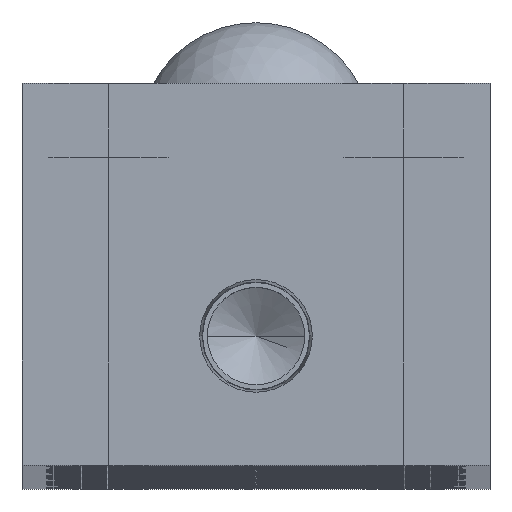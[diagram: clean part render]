
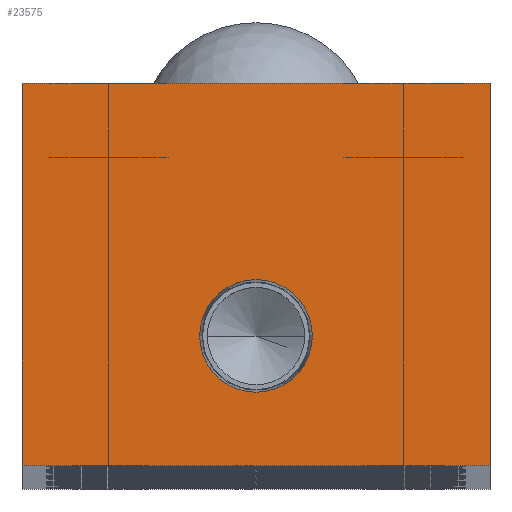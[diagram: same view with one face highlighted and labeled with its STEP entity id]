
A CAD part, top view. The second image highlights one B-rep face of the part: STEP entity #23575.
In plain terms, the highlighted planar face has unit normal (0, 0, 1).
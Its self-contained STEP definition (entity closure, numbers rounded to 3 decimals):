
#78 = DIRECTION ( 'NONE',  ( 0., 0., 1. ) ) ;
#488 = AXIS2_PLACEMENT_3D ( 'NONE', #12003, #78, #13987 ) ;
#776 = FACE_OUTER_BOUND ( 'NONE', #14214, .T. ) ;
#1343 = CIRCLE ( 'NONE', #8031, 4.574 ) ;
#1709 = VECTOR ( 'NONE', #20696, 1000. ) ;
#2807 = EDGE_CURVE ( 'NONE', #15770, #7785, #13176, .T. ) ;
#2835 = ORIENTED_EDGE ( 'NONE', *, *, #8376, .T. ) ;
#3210 = VECTOR ( 'NONE', #14249, 1000. ) ;
#4019 = ORIENTED_EDGE ( 'NONE', *, *, #2807, .T. ) ;
#4282 = CARTESIAN_POINT ( 'NONE',  ( -19., 0., 0. ) ) ;
#4551 = DIRECTION ( 'NONE',  ( 0., 0., -1. ) ) ;
#4809 = CARTESIAN_POINT ( 'NONE',  ( 19., 31., 0. ) ) ;
#5466 = DIRECTION ( 'NONE',  ( 0., 0., 1. ) ) ;
#6049 = FACE_BOUND ( 'NONE', #10559, .T. ) ;
#6337 = CARTESIAN_POINT ( 'NONE',  ( 19., 31., 0. ) ) ;
#6856 = CARTESIAN_POINT ( 'NONE',  ( 19., 0., 0. ) ) ;
#7102 = CARTESIAN_POINT ( 'NONE',  ( -19., 31., 0. ) ) ;
#7663 = VERTEX_POINT ( 'NONE', #4282 ) ;
#7696 = VERTEX_POINT ( 'NONE', #14383 ) ;
#7785 = VERTEX_POINT ( 'NONE', #4809 ) ;
#7807 = CARTESIAN_POINT ( 'NONE',  ( 19., 0., 0. ) ) ;
#8031 = AXIS2_PLACEMENT_3D ( 'NONE', #17369, #5466, #19355 ) ;
#8376 = EDGE_CURVE ( 'NONE', #7663, #15770, #17549, .T. ) ;
#9028 = LINE ( 'NONE', #14829, #18955 ) ;
#9597 = EDGE_CURVE ( 'NONE', #23989, #11943, #1343, .T. ) ;
#9918 = ORIENTED_EDGE ( 'NONE', *, *, #15816, .F. ) ;
#9936 = CARTESIAN_POINT ( 'NONE',  ( 4.574, 10.5, 0. ) ) ;
#10069 = EDGE_CURVE ( 'NONE', #7785, #7696, #24571, .T. ) ;
#10131 = DIRECTION ( 'NONE',  ( -1., 0., 0. ) ) ;
#10559 = EDGE_LOOP ( 'NONE', ( #11789, #9918 ) ) ;
#10693 = ORIENTED_EDGE ( 'NONE', *, *, #17332, .T. ) ;
#11291 = ORIENTED_EDGE ( 'NONE', *, *, #10069, .T. ) ;
#11789 = ORIENTED_EDGE ( 'NONE', *, *, #9597, .F. ) ;
#11943 = VERTEX_POINT ( 'NONE', #14576 ) ;
#12003 = CARTESIAN_POINT ( 'NONE',  ( 0., 10.5, 0. ) ) ;
#12469 = CARTESIAN_POINT ( 'NONE',  ( 0., 0., 0. ) ) ;
#13176 = LINE ( 'NONE', #6337, #3210 ) ;
#13987 = DIRECTION ( 'NONE',  ( 1., 0., 0. ) ) ;
#14214 = EDGE_LOOP ( 'NONE', ( #10693, #2835, #4019, #11291 ) ) ;
#14249 = DIRECTION ( 'NONE',  ( 0., 1., 0. ) ) ;
#14383 = CARTESIAN_POINT ( 'NONE',  ( -19., 31., 0. ) ) ;
#14576 = CARTESIAN_POINT ( 'NONE',  ( -4.574, 10.5, 0. ) ) ;
#14829 = CARTESIAN_POINT ( 'NONE',  ( -19., 0., 0. ) ) ;
#15770 = VERTEX_POINT ( 'NONE', #7807 ) ;
#15816 = EDGE_CURVE ( 'NONE', #11943, #23989, #20551, .T. ) ;
#16592 = AXIS2_PLACEMENT_3D ( 'NONE', #12469, #4551, #18453 ) ;
#16808 = DIRECTION ( 'NONE',  ( 0., -1., 0. ) ) ;
#17332 = EDGE_CURVE ( 'NONE', #7696, #7663, #9028, .T. ) ;
#17369 = CARTESIAN_POINT ( 'NONE',  ( 0., 10.5, 0. ) ) ;
#17549 = LINE ( 'NONE', #6856, #1709 ) ;
#18453 = DIRECTION ( 'NONE',  ( -1., 0., 0. ) ) ;
#18955 = VECTOR ( 'NONE', #16808, 1000. ) ;
#19293 = VECTOR ( 'NONE', #10131, 1000. ) ;
#19355 = DIRECTION ( 'NONE',  ( 1., 0., 0. ) ) ;
#20383 = PLANE ( 'NONE',  #16592 ) ;
#20551 = CIRCLE ( 'NONE', #488, 4.574 ) ;
#20696 = DIRECTION ( 'NONE',  ( 1., 0., 0. ) ) ;
#23575 = ADVANCED_FACE ( 'NONE', ( #6049, #776 ), #20383, .F. ) ;
#23989 = VERTEX_POINT ( 'NONE', #9936 ) ;
#24571 = LINE ( 'NONE', #7102, #19293 ) ;
